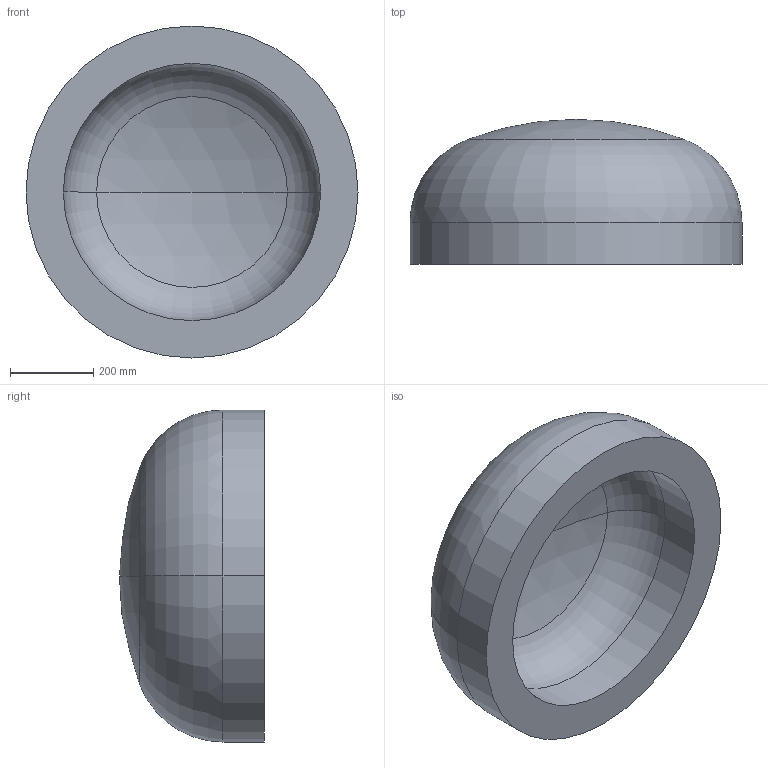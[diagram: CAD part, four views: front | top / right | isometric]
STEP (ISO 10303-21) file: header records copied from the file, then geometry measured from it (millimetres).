
FILE_DESCRIPTION (( 'STEP AP203' ), '1' );
FILE_NAME ('DIN 28013 Korbbogenform_-_Boden DIN 28013 - 800 x 100 - I - s=90.step', '2016-07-01T08:21:49', ( '' ), ( '' ), 'SwSTEP 2.0', 'SolidWorks 2013', '' );
FILE_SCHEMA (( 'CONFIG_CONTROL_DESIGN' ));
Length unit declared in the file: millimetre
Products named in the file (1): DIN 28013 Korbbogenform_-_Boden DIN 28013 - 800 x 100 - I - s=90
Bounding box: 800 x 349.38 x 800 mm (x, y, z)
Volume: 74820477.3 mm3; surface area: 1880389.4 mm2
Topology: 1 solids, 1 shells, 13 faces, 24 edges, 14 vertices
Faces by surface type: torus 4, cylinder 4, sphere 4, plane 1
Entity records: 407 total; most frequent: DIRECTION 72, CARTESIAN_POINT 52, ORIENTED_EDGE 48, AXIS2_PLACEMENT_3D 34, EDGE_CURVE 24, CIRCLE 20, EDGE_LOOP 14, VERTEX_POINT 14
